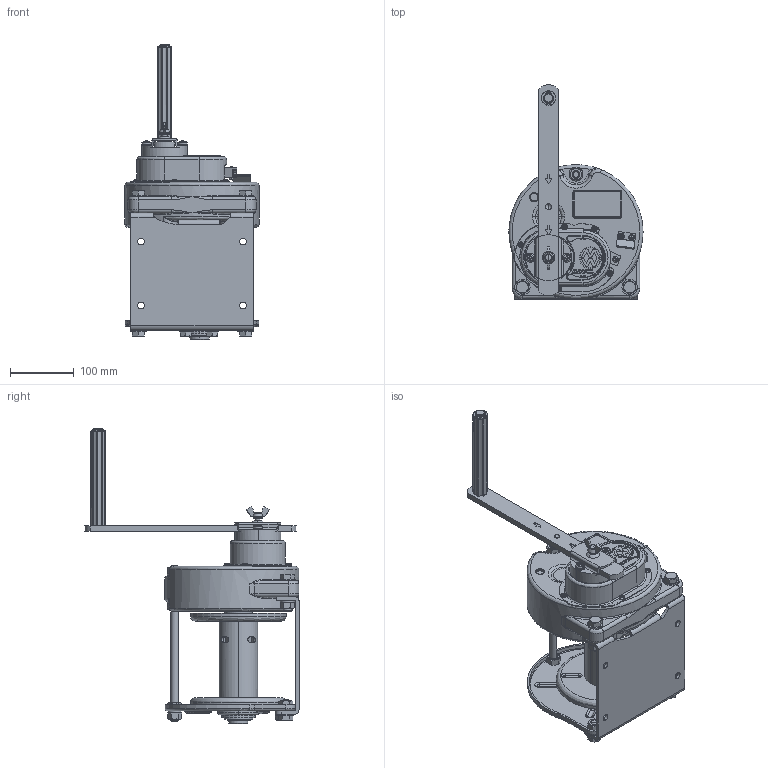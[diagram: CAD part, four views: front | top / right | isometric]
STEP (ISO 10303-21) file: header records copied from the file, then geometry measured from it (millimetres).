
FILE_DESCRIPTION( (''), '2;1');
FILE_NAME ('GM-3.stp','2023-12-20T16:56:08',(''),(''),'spGate 19.8.2 (****-****-****-****)','','');
FILE_SCHEMA (('AUTOMOTIVE_DESIGN'));
Length unit declared in the file: millimetre
Products named in the file (3): Assembly; GM-3-prt0; GM-3-prt1
Assembly tree (2 placements, depth 2):
  Assembly
    GM-3-prt0
    GM-3-prt1
Bounding box: 209.96 x 335.43 x 463.5 mm (x, y, z)
Volume: 3705052.3 mm3; surface area: 589327.6 mm2
Topology: 2 solids, 2 shells, 2521 faces, 6536 edges, 4086 vertices
Faces by surface type: plane 1192, cylinder 795, bspline 462, sphere 72
Entity records: 138158 total; most frequent: CARTESIAN_POINT 26522, ORIENTED_EDGE 12934, DIRECTION 12308, COLOUR_RGB 8990, PRESENTATION_STYLE_ASSIGNMENT 8990, STYLED_ITEM 8990, EDGE_CURVE 6467, DRAUGHTING_PRE_DEFINED_CURVE_FONT 6467
